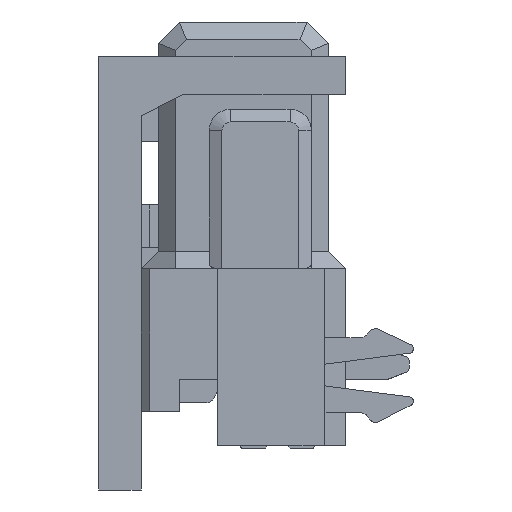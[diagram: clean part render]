
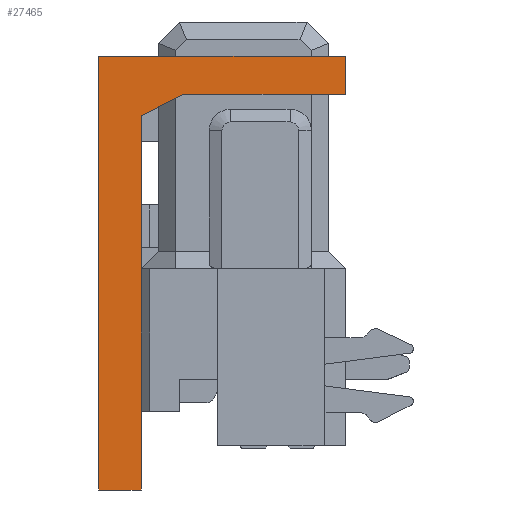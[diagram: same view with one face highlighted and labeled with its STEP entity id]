
A CAD part, left-side view. The second image highlights one B-rep face of the part: STEP entity #27465.
In plain terms, the highlighted planar face has unit normal (-1, 0, 0) as drawn and (1, 0, 0) by its records, which use the part's own axes.
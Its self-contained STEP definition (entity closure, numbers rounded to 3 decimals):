
#26668=DIRECTION('',(0.,0.,1.));
#26669=VECTOR('',#26668,8.8);
#26670=CARTESIAN_POINT('',(-720.888,-17.611,
-8.8));
#26671=LINE('',#26670,#26669);
#26672=DIRECTION('',(0.,1.,0.));
#26673=VECTOR('',#26672,1.);
#26674=CARTESIAN_POINT('',(-720.888,-17.611,0.));
#26675=LINE('',#26674,#26673);
#26676=DIRECTION('',(0.,0.,-1.));
#26677=VECTOR('',#26676,10.2);
#26678=CARTESIAN_POINT('',(-720.888,-16.611,0.));
#26679=LINE('',#26678,#26677);
#26680=DIRECTION('',(0.,-1.,0.));
#26681=VECTOR('',#26680,5.8);
#26682=CARTESIAN_POINT('',(-720.888,-16.611,
-10.2));
#26683=LINE('',#26682,#26681);
#26684=DIRECTION('',(0.,0.,1.));
#26685=VECTOR('',#26684,0.9);
#26686=CARTESIAN_POINT('',(-720.888,-22.411,
-10.2));
#26687=LINE('',#26686,#26685);
#26688=DIRECTION('',(0.,0.894,0.447));
#26689=VECTOR('',#26688,1.118);
#26690=CARTESIAN_POINT('',(-720.888,-18.611,
-9.3));
#26691=LINE('',#26690,#26689);
#26708=DIRECTION('',(0.,-1.,0.));
#26709=VECTOR('',#26708,3.8);
#26710=CARTESIAN_POINT('',(-720.888,-18.611,
-9.3));
#26711=LINE('',#26710,#26709);
#27052=CARTESIAN_POINT('',(-720.888,-22.411,
-9.3));
#27054=VERTEX_POINT('',#27052);
#27056=CARTESIAN_POINT('',(-720.888,-22.411,
-10.2));
#27057=VERTEX_POINT('',#27056);
#27066=CARTESIAN_POINT('',(-720.888,-18.611,
-9.3));
#27067=VERTEX_POINT('',#27066);
#27086=CARTESIAN_POINT('',(-720.888,-17.611,0.));
#27087=VERTEX_POINT('',#27086);
#27088=CARTESIAN_POINT('',(-720.888,-17.611,
-8.8));
#27089=VERTEX_POINT('',#27088);
#27210=CARTESIAN_POINT('',(-720.888,-16.611,
-10.2));
#27211=VERTEX_POINT('',#27210);
#27218=CARTESIAN_POINT('',(-720.888,-16.611,0.));
#27219=VERTEX_POINT('',#27218);
#27447=CARTESIAN_POINT('',(-720.888,0.,0.));
#27448=DIRECTION('',(1.,0.,0.));
#27449=DIRECTION('',(0.,1.,0.));
#27450=AXIS2_PLACEMENT_3D('',#27447,#27448,#27449);
#27451=PLANE('',#27450);
#27452=ORIENTED_EDGE('',*,*,#27289,.T.);
#27454=ORIENTED_EDGE('',*,*,#27453,.T.);
#27456=ORIENTED_EDGE('',*,*,#27455,.T.);
#27457=ORIENTED_EDGE('',*,*,#27379,.T.);
#27459=ORIENTED_EDGE('',*,*,#27458,.T.);
#27461=ORIENTED_EDGE('',*,*,#27460,.F.);
#27462=ORIENTED_EDGE('',*,*,#27438,.T.);
#27463=EDGE_LOOP('',(#27452,#27454,#27456,#27457,#27459,#27461,#27462));
#27464=FACE_OUTER_BOUND('',#27463,.F.);
#27465=ADVANCED_FACE('',(#27464),#27451,.T.);
#27289=EDGE_CURVE('',#27089,#27087,#26671,.T.);
#27379=EDGE_CURVE('',#27211,#27057,#26683,.T.);
#27438=EDGE_CURVE('',#27067,#27089,#26691,.T.);
#27453=EDGE_CURVE('',#27087,#27219,#26675,.T.);
#27455=EDGE_CURVE('',#27219,#27211,#26679,.T.);
#27458=EDGE_CURVE('',#27057,#27054,#26687,.T.);
#27460=EDGE_CURVE('',#27067,#27054,#26711,.T.);
